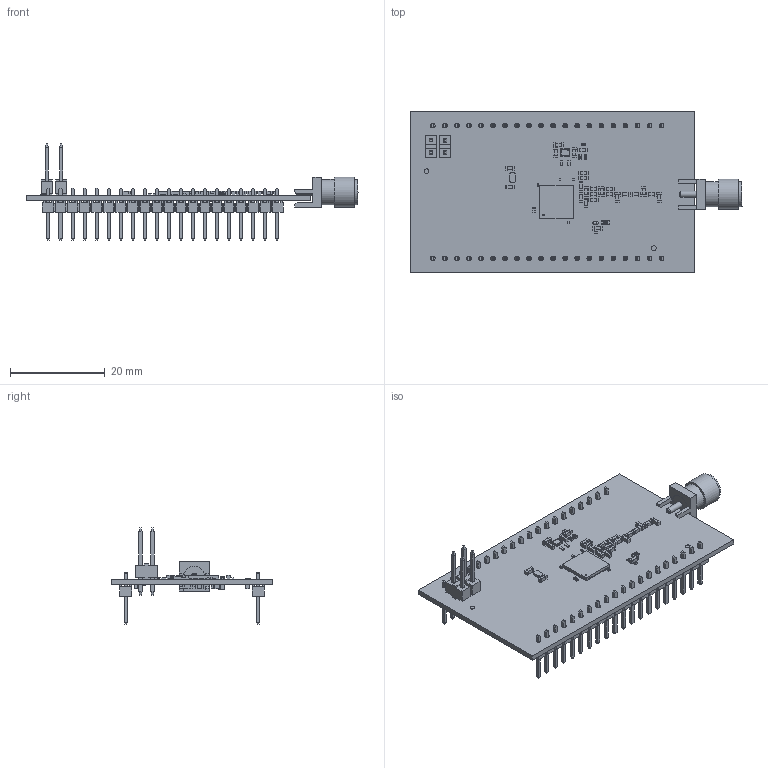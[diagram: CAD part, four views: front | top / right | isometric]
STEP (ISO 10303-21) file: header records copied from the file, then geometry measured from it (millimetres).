
FILE_DESCRIPTION(('Open CASCADE Model'),'2;1');
FILE_NAME('Open CASCADE Shape Model','2022-04-04T11:20:45',('Author'),( 'Open CASCADE'),'Open CASCADE STEP processor 6.8','Open CASCADE 6.8' ,'Unknown');
FILE_SCHEMA(('AUTOMOTIVE_DESIGN { 1 0 10303 214 1 1 1 1 }'));
Length unit declared in the file: millimetre
Products named in the file (108): PCB; Board; Open CASCADE STEP translator 6.8 1.1.1; Designator4; 6268675152; Extruded; Designator3; Designator2; Designator1; C110; 6268608944; 6268609104; CN2; SAMTEC_TSW-120-07-G-S; _TSW-120-07-G-S_body; _T-1S6-07-TSW-1-07-20-S; CN1; J2; 022032021; Open CASCADE STEP translator 6.8 1.9.1.1; Open CASCADE STEP translator 6.8 1.9.1.2; C38; User_Library-Chip_Cap_MLCC_0201_(0603); SB15; 6268609824; SB14; 6268609664; SB13; R101; R0402; 6268610144; R100; L9; IND_MURATA_LQW15AN; C37; C36; C1; CAPC1608X09; C2; 6268608464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
Assembly tree (210 placements, depth 4):
  PCB
    Board
      Open CASCADE STEP translator 6.8 1.1.1
    Designator4
      6268675152
        Extruded
    Designator3
      6268675152
        Extruded
    Designator2
      6268675152
        Extruded
    Designator1
      6268675152
        Extruded
    C110
      6268608944  x2
        Extruded
      6268609104
        Extruded
    CN2
      SAMTEC_TSW-120-07-G-S
        _TSW-120-07-G-S_body
        _T-1S6-07-TSW-1-07-20-S
    CN1
      SAMTEC_TSW-120-07-G-S
        _TSW-120-07-G-S_body
        _T-1S6-07-TSW-1-07-20-S
    J2
      022032021
        Open CASCADE STEP translator 6.8 1.9.1.1
        Open CASCADE STEP translator 6.8 1.9.1.2
    C38
      User_Library-Chip_Cap_MLCC_0201_(0603)
    SB15
      6268609824
        Extruded
    SB14
      6268609664
        Extruded
    SB13
      6268609824
        Extruded
    R101
      R0402
      6268610144
        Extruded
    R100
      R0402
      6268610144
        Extruded
    L9
      IND_MURATA_LQW15AN
    C37
      6268609104
        Extruded
      6268608944  x2
        Extruded
    C36
      6268608944  x2
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Bounding box: 70.01 x 34 x 20.29 mm (x, y, z)
Volume: 3315.3 mm3; surface area: 8136.7 mm2
Topology: 134 solids, 136 shells, 4775 faces, 11804 edges, 7248 vertices
Faces by surface type: plane 3588, cylinder 637, bspline 407, sphere 124, torus 18, cone 1
Full cylindrical faces by diameter (mm): 0.5 x1, 1 x44, 1.27 x2, 4.1 x1, 4.25 x1, 4.63 x1, 5.35 x2, 6.33 x1
Entity records: 94207 total; most frequent: CARTESIAN_POINT 18708, ORIENTED_EDGE 12542, DIRECTION 11506, EDGE_CURVE 6272, LINE 4966, VECTOR 4966, VERTEX_POINT 3925, AXIS2_PLACEMENT_3D 3270
